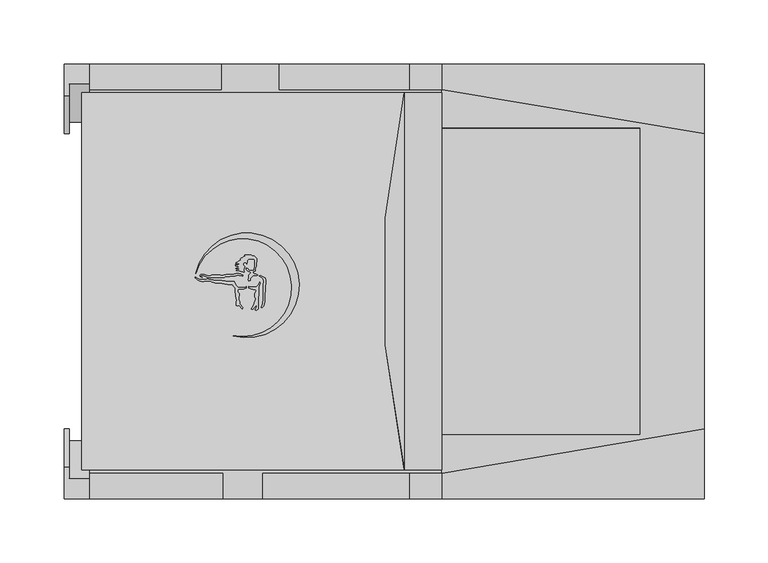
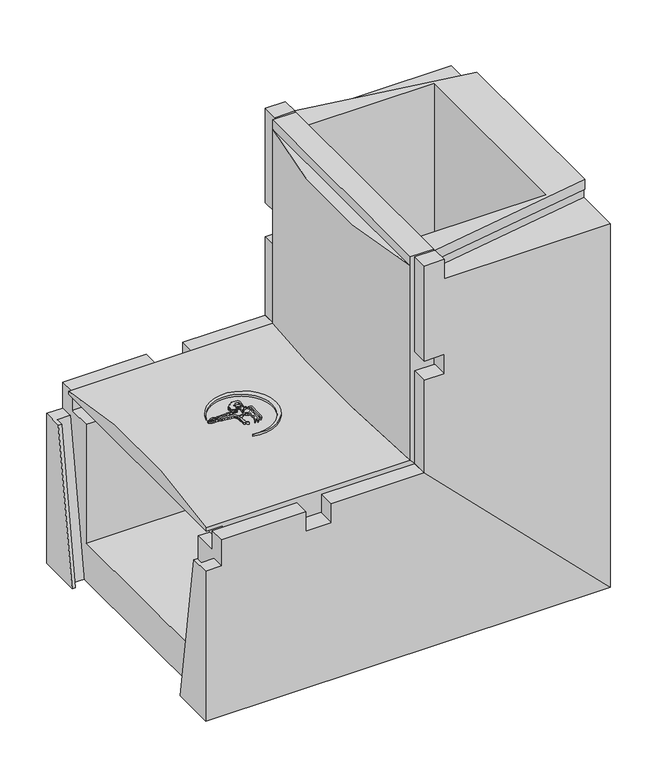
"""IFC4 building model written with IfcOpenShell, lengths in millimetres: cable carrier fitting geometry, Evotray type 2 vertical bend up : Evotray type 2 vertical bend up."""

from ifc_helpers import new_model, si_unit, point, frame, frame_2d, origin, place, context, project, spatial, polyline, circle_curve, ellipse_curve, trimmed, segment, composite_curve, outline, extrude, faceted_brep, source, transform, mapped, element, save
from ifc_brep_helpers import plane_surface, cylinder_surface, advanced_brep


def cable_carrier_fitting_900310c0(model_context):
    return source(origin(), model_context, "Body", "SolidModel", [
        extrude(outline(composite_curve([segment(polyline([(-235.1987673, 5.907559), (-233.7730763, 5.0844359), (-234.4820077, 4.6751342), (-237.0469375, 4.6751342), (-239.5064308, 2.2156409), (-239.5064308, 0.6319729), (-240.5639447, 0.3486129), (-240.8953119, 1.5852919), (-240.5730905, 2.7878385), (-240.5730905, 5.0146536), (-239.1065498, 6.4811943), (-239.5064308, 7.1738084), (-240.5730905, 7.7896447), (-241.4313624, 8.2851682), (-242.4244859, 9.2782918), (-242.4244859, 10.5283487), (-241.6366917, 10.0735155), (-240.5730905, 9.0099142), (-239.5064308, 8.394078), (-237.1936661, 8.394078), (-236.5617675, 9.0259766), (-236.5617675, 10.6343813), (-236.1559104, 11.3373462), (-235.9163405, 12.2314336), (-235.9163405, 16.3268685), (-236.5617675, 16.9722955), (-240.5730905, 17.3232408), (-241.3212546, 16.8912881), (-241.7531031, 16.1433045), (-241.9754965, 15.313321), (-242.2482129, 13.7666695), (-242.8042347, 14.3226912), (-243.3698905, 14.8883471), (-244.3304254, 14.8883471), (-244.8048648, 14.0665939), (-244.8048648, 13.2416885), (-244.4028177, 12.5453225), (-243.675123, 11.8176278), (-244.0717623, 10.3373496), (-244.4092623, 9.0777826), (-244.1064549, 7.3604762), (-244.907248, 7.2192748), (-246.6376932, 7.6829462), (-247.8844025, 8.2642963), (-248.6376597, 8.6155459), (-250.2371082, 8.33352), (-249.7695498, 9.1433549), (-248.1127288, 9.7463885)]), True, "CONTINUOUS"), segment(trimmed(circle_curve(frame_2d((-248.6788564, 9.4744491)), 0.6280537), [point((-248.1127288, 9.7463885))], [point((-248.8344386, 10.0829273))], True, "CARTESIAN"), True, "CONTINUOUS"), segment(polyline([(-248.8344386, 10.0829273), (-250.7814537, 10.0829273), (-250.2232755, 10.6411054), (-249.3724958, 10.9507639), (-248.5540563, 11.2486515)]), True, "CONTINUOUS"), segment(trimmed(circle_curve(frame_2d((-249.2923812, 11.2486515)), 0.7383249), [point((-248.5540563, 11.2486515))], [point((-249.2923812, 11.9869764))], True, "CARTESIAN"), True, "CONTINUOUS"), segment(polyline([(-249.2923812, 11.9869764), (-251.0001288, 11.9869764), (-251.3916504, 12.6651117), (-249.5730583, 12.9857785), (-248.2767203, 13.457607), (-248.897473, 14.0783597), (-250.8606925, 14.0783597), (-250.30811, 14.6309421), (-249.2782773, 15.2255163), (-248.603553, 15.9002407), (-247.8807357, 16.3175594), (-246.9057237, 16.8804829)]), True, "CONTINUOUS"), segment(trimmed(circle_curve(frame_2d((-247.1167091, 17.2459203)), 0.4219708), [point((-246.9057237, 16.8804829))], [point((-247.3276945, 17.6113577))], True, "CARTESIAN"), True, "CONTINUOUS"), segment(polyline([(-247.3276945, 17.6113577), (-246.7102978, 18.2287544), (-245.4076278, 18.7028875), (-244.4125713, 19.2773836), (-243.2810347, 19.4769041), (-243.6348604, 20.4490324), (-238.6348604, 20.4490324), (-237.6206866, 19.9761154), (-236.4988316, 19.6755153), (-235.4843855, 19.0898245), (-234.3757091, 17.9811481), (-234.3757091, 15.4151328), (-234.8646262, 14.5683035), (-234.8646262, 11.8362675), (-235.3536612, 10.7875287), (-235.760463, 10.0829273), (-235.760463, 8.2341629), (-236.5617675, 7.7715296), (-237.3950459, 7.6246001)]), True, "CONTINUOUS"), segment(trimmed(circle_curve(frame_2d((-236.3420944, 7.3424626)), 1.0900956), [point((-237.3950459, 7.6246001))], [point((-236.6242319, 6.2895111))], True, "CARTESIAN"), True, "CONTINUOUS"), segment(polyline([(-236.6242319, 6.2895111), (-235.1987673, 5.907559)]), True, "CONTINUOUS")], self_intersect=False)), frame((0.0, 0.0, 229.0645802), z_axis=(0.0, 0.0, 1.0), x_axis=(1.0, 0.0, 0.0)), (0.0, 0.0, 1.0), 22.5),
        extrude(outline(polyline([(-230.6420581, 3.0525563), (-232.5647021, 4.1625953), (-231.375462, 4.4812513), (-230.0006066, 3.9808448), (-227.8744575, 2.753312), (-227.462808, 1.2170154), (-227.462808, -1.5561738), (-227.8811889, -3.9289297), (-228.2073261, -13.2682758), (-228.2073261, -16.1231727), (-228.766974, -19.297094), (-229.9259981, -20.4561181), (-230.8234867, -20.4561181), (-230.1486125, -18.6019165), (-229.8396569, -16.8497423), (-229.3251997, -13.9321102), (-229.3251997, -2.6926455), (-228.883565, -0.1880111), (-229.4260419, 1.8365401), (-230.6420581, 3.0525563)])), frame((0.0, 0.0, 229.0645802), z_axis=(0.0, 0.0, 1.0), x_axis=(1.0, 0.0, 0.0)), (0.0, 0.0, 1.0), 22.5),
        extrude(outline(composite_curve([segment(polyline([(-238.070307, -4.5554644), (-236.0881056, -4.5554644), (-234.6198413, -4.2965698), (-233.3145593, -2.9912878), (-232.1344504, -0.4605362), (-231.6534984, -1.7819409), (-232.2762062, -3.117342), (-232.9468137, -4.5554644), (-232.9468137, -10.5136603), (-233.3751928, -12.943119), (-233.3751928, -21.4242609), (-234.8238515, -22.8729196), (-235.3965887, -22.3001824), (-234.7178687, -20.5578122), (-234.4597233, -19.0937972)]), True, "CONTINUOUS"), segment(trimmed(circle_curve(frame_2d((-234.8743713, -19.0937972)), 0.414648), [point((-234.4597233, -19.0937972))], [point((-235.2890194, -19.0937972))], True, "CARTESIAN"), True, "CONTINUOUS"), segment(polyline([(-235.2890194, -19.0937972), (-236.0547081, -19.8594859), (-237.3215546, -21.3692548), (-237.9770637, -22.0247639), (-238.7693849, -21.6552984), (-236.605165, -18.4467105), (-236.2992553, -16.7118106), (-235.4571975, -14.9060116), (-235.19999, -13.4473154), (-235.9884987, -12.0815782), (-235.9884987, -9.315031), (-234.6653502, -7.4454743)]), True, "CONTINUOUS"), segment(trimmed(circle_curve(frame_2d((-235.0024552, -7.2068937)), 0.4129897), [point((-234.6653502, -7.4454743))], [point((-235.2410358, -6.8697887))], True, "CARTESIAN"), True, "CONTINUOUS"), segment(polyline([(-235.2410358, -6.8697887), (-237.2448508, -6.516462), (-238.6887473, -5.843162), (-240.508748, -4.9944818), (-240.508748, -4.1255015), (-238.070307, -4.5554644)]), True, "CONTINUOUS")], self_intersect=False)), frame((0.0, 0.0, 229.0645802), z_axis=(0.0, 0.0, 1.0), x_axis=(1.0, 0.0, 0.0)), (0.0, 0.0, 1.0), 22.5),
        extrude(outline(composite_curve([segment(polyline([(-280.4819029, 2.2537302), (-278.7462291, 1.4443722), (-274.5597552, 1.4443722), (-273.4890341, 1.731271), (-272.1624965, 1.731271), (-270.4413877, 1.4443722), (-268.4350656, 0.9067798), (-267.2818775, 0.597784), (-261.5899708, 0.597784), (-258.9734749, 0.1616293), (-257.6459123, -0.19409), (-252.03167, -0.19409)]), True, "CONTINUOUS"), segment(trimmed(circle_curve(frame_2d((-243.1781038, 2.7115165)), 9.3181642), [point((-252.03167, -0.19409))], [point((-248.6774022, -4.8108435))], True, "CARTESIAN"), True, "CONTINUOUS"), segment(polyline([(-248.6774022, -4.8108435), (-245.6256174, -4.8108435), (-243.5910388, -4.632841), (-242.4520349, -4.1017147), (-242.7095548, -5.0627921), (-243.6536491, -5.6078652), (-244.612336, -5.9567987), (-247.847041, -5.8438403), (-249.0357356, -6.2764898), (-249.44473, -7.153581), (-249.3696494, -8.0117562), (-248.8907652, -8.8412079), (-248.1701597, -9.5618134), (-248.1701597, -11.3180259), (-248.53546, -12.3216801), (-248.3911934, -13.970655), (-247.8861011, -15.8556852), (-247.737982, -17.5486944), (-245.3666469, -20.2766033), (-245.5753239, -21.4600691), (-248.1701597, -18.8652332), (-249.1329913, -19.1232231), (-250.5361675, -18.8758053), (-250.2606072, -18.1187094), (-250.2606072, -15.8446539), (-250.0850033, -14.8487551), (-250.2606072, -12.8415943), (-250.6362696, -11.8094702), (-250.6362696, -9.9842873), (-251.0826053, -9.0271173), (-251.0826053, -6.6493678), (-251.3310455, -5.7221762), (-251.7830159, -4.9393406), (-252.2317276, -4.1621491), (-252.84617, -3.5477067), (-253.2800213, -2.6173096), (-256.8809595, -2.4915621), (-259.2251115, -2.1008055), (-261.2577048, -1.5561738), (-264.5993244, -1.2049554), (-266.6789374, -1.2049554), (-268.021172, -0.8453047), (-269.5447671, -0.4370587), (-270.8880204, 0.1893106), (-271.8824091, 0.1893106), (-274.5338495, 0.1893106), (-275.6460936, -0.1087143), (-277.5093755, 0.0871245), (-278.9984504, 0.3353447), (-280.6717579, 1.1156208), (-281.6476843, 2.0915471), (-282.2867674, 2.7306302), (-282.2867674, 3.5175099), (-280.4819029, 2.2537302)]), True, "CONTINUOUS")], self_intersect=False)), frame((0.0, 0.0, 229.0645802), z_axis=(0.0, 0.0, 1.0), x_axis=(1.0, 0.0, 0.0)), (0.0, 0.0, 1.0), 22.5),
        extrude(outline(composite_curve([segment(polyline([(-277.9796703, 3.7977023), (-276.956356, 3.2068915), (-278.6840165, 3.7265624), (-279.014163, 4.6441261), (-278.1758386, 5.4824506), (-275.30302, 5.4824506), (-274.318583, 5.0847122), (-273.2280942, 4.6441261), (-272.4299007, 4.1832889), (-271.1696706, 4.1832889), (-270.3486455, 4.4787), (-269.4633932, 4.9898007), (-263.0496883, 4.9898007), (-262.1941137, 4.6441261), (-261.1237116, 4.6441261), (-260.1629915, 4.9898007), (-258.9838348, 4.9898007), (-258.2654957, 5.4045339), (-252.8528405, 5.4045339), (-252.0925598, 5.6780888), (-250.8504018, 5.6780888), (-250.2746333, 6.2538574), (-248.3170698, 6.2538574), (-247.0290688, 5.7334711), (-246.0171524, 5.1492409), (-245.2127113, 4.8242256)]), True, "CONTINUOUS"), segment(trimmed(circle_curve(frame_2d((-245.6200436, 4.6596527)), 0.4393221), [point((-245.2127113, 4.8242256))], [point((-245.7846166, 4.2523203))], False, "CARTESIAN"), True, "CONTINUOUS"), segment(polyline([(-245.7846166, 4.2523203), (-246.8003453, 4.6627013), (-248.112003, 4.6627013), (-249.382433, 4.8867124), (-250.1944574, 4.5945398), (-251.3374314, 4.1832889), (-254.6816293, 4.1832889), (-255.4727027, 3.7265624), (-259.0400229, 3.7265624), (-259.9228853, 3.2168416), (-269.9228853, 3.2168416), (-272.5335493, 2.9884381), (-276.222077, 4.4787), (-278.3728446, 4.4787), (-277.9796703, 3.7977023)]), True, "CONTINUOUS")], self_intersect=False)), frame((0.0, 0.0, 229.0645802), z_axis=(0.0, 0.0, 1.0), x_axis=(1.0, 0.0, 0.0)), (0.0, 0.0, 1.0), 22.5),
        extrude(outline(composite_curve([segment(trimmed(circle_curve(frame_2d((-245.3994103, -4.8721323)), 38.3616107), [point((-252.8072471, -42.511701))], [point((-282.1109456, 6.2578432))], True, "CARTESIAN"), True, "CONTINUOUS"), segment(trimmed(circle_curve(frame_2d((-242.2700096, -2.9917986)), 40.900563), [point((-282.1109456, 6.2578432))], [point((-252.8072471, -42.511701))], False, "CARTESIAN"), True, "CONTINUOUS")], self_intersect=False)), frame((0.0, 0.0, 229.0645802), z_axis=(0.0, 0.0, 1.0), x_axis=(1.0, 0.0, 0.0)), (0.0, 0.0, 1.0), 22.5),
        advanced_brep(
        [(-90.0, -147.5, 205.0), (-90.0, -147.5, 500.0), (-118.9759433, -147.5, 500.0), (-118.9759433, -147.5, 488.0), (-119.0, -147.5, 234.0), (-90.0, 147.5, 500.0), (-90.0, 147.5, 205.0), (-119.0, 147.5, 234.0), (-119.0, 147.5, 488.0), (-118.9759433, 147.5, 500.0)],
        [
            (0, 1),
            (1, 2),
            (2, 3),
            (3, 4),
            (4, 0),
            (5, 6),
            (6, 7),
            (7, 8),
            (8, 9),
            (9, 5),
            (1, 5),
            (9, 2),
            (6, 0),
            (4, 7, ellipse_curve(frame((514.2945779, 0.0, -399.2945779), z_axis=(-0.7071067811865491, 0.0, -0.707106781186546), x_axis=(-0.707106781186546, 0.0, 0.7071067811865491)), 919.584985, 650.2447788)),
            (8, 3),
            (8, 3, circle_curve(frame((514.2945779, 0.0, 488.0), z_axis=(0.0, 0.0, 1.0), x_axis=(0.0, -1.0, 0.0)), 650.2447788)),
        ],
        [
            plane_surface(frame((-90.0, -147.5, 500.0), z_axis=(0.0, -1.0, 0.0), x_axis=(-1.0, 0.0, 0.0))),
            plane_surface(frame((-90.0, 147.5, 500.0), z_axis=(0.0, 1.0, 0.0), x_axis=(1.0, 0.0, 0.0))),
            plane_surface(frame((-90.0, -147.5, 500.0), z_axis=(0.0, 0.0, 1.0), x_axis=(0.0, 1.0, 0.0))),
            plane_surface(frame((-136.0, -147.5, 251.0), z_axis=(-0.7071067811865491, 0.0, -0.707106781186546), x_axis=(0.0, 1.0, 0.0))),
            plane_surface(frame((-90.0, -147.5, 205.0), z_axis=(1.0, 0.0, 0.0), x_axis=(0.0, 1.0, 0.0))),
            plane_surface(frame((-118.9759433, -147.5, 500.0), z_axis=(-1.0, 0.0, 0.0), x_axis=(0.0, 0.0, -1.0))),
            plane_surface(frame((-118.9759433, -147.5, 488.0), z_axis=(0.0, 0.0, 1.0), x_axis=(-1.0, 0.0, 0.0))),
            cylinder_surface(frame((514.2945779, 0.0, 228.0), z_axis=(0.0, 0.0, 1.0), x_axis=(0.0, -1.0, 0.0)), 650.2447788),
        ],
        [
            (0, [[1, 2, 3, 4, 5]]),
            (1, [[6, 7, 8, 9, 10]]),
            (2, [[11, -10, 12, -2]]),
            (3, [[13, -5, 14, -7]]),
            (4, [[-1, -13, -6, -11]]),
            (5, [[15, -3, -12, -9]]),
            (6, [[-15, 16]]),
            (7, [[-4, -16, -8, -14]]),
        ],
    ),
        advanced_brep(
        [(-351.0, -147.5, 205.0), (-90.0, -147.5, 205.0), (-119.0, -147.5, 234.0), (-371.0, -147.5, 234.0), (-371.0, -147.5, 230.0), (-351.0, -147.5, 230.0), (-90.0, 147.5, 205.0), (-351.0, 147.5, 205.0), (-351.0, 147.5, 230.0), (-371.0, 147.5, 230.0), (-371.0, 147.5, 234.0), (-119.0, 147.5, 234.0)],
        [
            (0, 1),
            (1, 2),
            (2, 3),
            (3, 4),
            (4, 5),
            (5, 0),
            (6, 7),
            (7, 8),
            (8, 9),
            (9, 10),
            (10, 11),
            (11, 6),
            (9, 4),
            (3, 10, circle_curve(frame((-371.0, 0.0, -399.2945779), z_axis=(-1.0, 0.0, 0.0), x_axis=(0.0, -1.0, 0.0)), 650.2447788)),
            (6, 1),
            (0, 7),
            (11, 2, ellipse_curve(frame((514.2945779, 0.0, -399.2945779), z_axis=(0.7071067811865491, 0.0, 0.707106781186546), x_axis=(0.7071067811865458, 0.0, -0.7071067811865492)), 919.584985, 650.2447788)),
            (8, 5),
        ],
        [
            plane_surface(frame((-371.0, -147.5, 205.0), z_axis=(0.0, -1.0, 0.0), x_axis=(0.0, 0.0, -1.0))),
            plane_surface(frame((-371.0, 147.5, 205.0), z_axis=(0.0, 1.0, 0.0), x_axis=(0.0, 0.0, 1.0))),
            plane_surface(frame((-371.0, -147.5, 251.0), z_axis=(-1.0, 0.0, 0.0), x_axis=(0.0, 1.0, 0.0))),
            plane_surface(frame((-371.0, -147.5, 205.0), z_axis=(0.0, 0.0, -1.0), x_axis=(0.0, 1.0, 0.0))),
            plane_surface(frame((-90.0, -147.5, 205.0), z_axis=(0.7071067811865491, 0.0, 0.707106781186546), x_axis=(0.0, 1.0, 0.0))),
            plane_surface(frame((-371.0, 147.5, 230.0), z_axis=(0.0, 0.0, -1.0), x_axis=(-1.0, 0.0, 0.0))),
            plane_surface(frame((-351.0, -147.5, 230.0), z_axis=(-1.0, 0.0, 0.0), x_axis=(0.0, 0.0, -1.0))),
            cylinder_surface(frame((-371.0, 0.0, -399.2945779), z_axis=(1.0, 0.0, 0.0), x_axis=(0.0, -1.0, 0.0)), 650.2447788),
        ],
        [
            (0, [[1, 2, 3, 4, 5, 6]]),
            (1, [[7, 8, 9, 10, 11, 12]]),
            (2, [[13, -4, 14, -10]]),
            (3, [[15, -1, 16, -7]]),
            (4, [[-15, -12, 17, -2]]),
            (5, [[18, -5, -13, -9]]),
            (6, [[-18, -8, -16, -6]]),
            (7, [[-3, -17, -11, -14]]),
        ],
    ),
        faceted_brep([(-115.0, -170.0, 230.0), (115.0, -170.0, 0.0), (115.0, -170.0, 475.0), (-90.0, -170.0, 475.0), (-90.0, -170.0, 500.0), (-115.0, -170.0, 500.0), (-115.0, -170.0, 376.0), (-90.0, -170.0, 376.0), (-90.0, -170.0, 351.0), (-115.0, -170.0, 351.0), (115.0, 170.0, 0.0), (-115.0, 170.0, 230.0), (-115.0, 170.0, 332.0), (-90.0, 170.0, 332.0), (-90.0, 170.0, 377.0), (-115.0, 170.0, 377.0), (-115.0, 170.0, 500.0), (-90.0, 170.0, 500.0), (-90.0, 170.0, 475.0), (115.0, 170.0, 475.0), (-90.0, -120.0, 500.0), (-90.0, -150.0, 500.0), (115.0, -115.4, 500.0), (115.0, 115.4, 500.0), (-90.0, 150.0, 500.0), (-90.0, 120.0, 500.0), (65.0, 120.0, 500.0), (65.0, -120.0, 500.0), (-115.0, -150.0, 500.0), (-115.0, 150.0, 500.0), (-115.0, -150.0, 376.0), (-115.0, 150.0, 377.0), (-115.0, -150.0, 230.0), (-115.0, -150.0, 351.0), (-115.0, 150.0, 230.0), (-115.0, 150.0, 332.0), (-90.0, -150.0, 205.0), (-90.0, -120.0, 205.0), (65.0, -120.0, 50.0), (65.0, 120.0, 50.0), (-90.0, 120.0, 205.0), (-90.0, 150.0, 205.0), (115.0, 113.0, 475.0), (115.0, 113.0, 487.0), (115.0, 115.4, 487.0), (115.0, -115.4, 487.0), (115.0, -113.0, 487.0), (115.0, -113.0, 475.0), (-90.0, -150.0, 487.0), (-90.0, -150.0, 475.0), (-90.0, -150.0, 376.0), (-90.0, -150.0, 351.0), (-90.0, 150.0, 377.0), (-90.0, 150.0, 475.0), (-90.0, 150.0, 487.0), (-90.0, 150.0, 332.0), (-90.0, -147.6, 475.0), (-90.0, -147.6, 487.0), (-90.0, 147.6, 487.0), (-90.0, 147.6, 475.0)], [[[0, 1, 2, 3, 4, 5, 6, 7, 8, 9]], [[10, 11, 12, 13, 14, 15, 16, 17, 18, 19]], [[20, 21, 22, 23, 24, 25, 26, 27]], [[28, 5, 4, 21]], [[16, 29, 24, 17]], [[5, 28, 30, 6]], [[29, 16, 15, 31]], [[32, 0, 9, 33]], [[11, 34, 35, 12]], [[1, 0, 32, 36, 37, 38, 39, 40, 41, 34, 11, 10]], [[1, 10, 19, 42, 43, 44, 23, 22, 45, 46, 47, 2]], [[28, 21, 48, 49, 50, 30]], [[36, 32, 33, 51]], [[24, 29, 31, 52, 53, 54]], [[34, 41, 55, 35]], [[37, 36, 51, 8, 7, 50, 49, 56, 57, 48, 21, 20]], [[41, 40, 25, 24, 54, 58, 59, 53, 52, 14, 13, 55]], [[27, 38, 37, 20]], [[39, 26, 25, 40]], [[38, 27, 26, 39]], [[48, 21, 4, 3, 49]], [[21, 48, 45, 22]], [[24, 54, 53, 18, 17]], [[54, 24, 23, 44]], [[46, 57, 56, 47]], [[47, 56, 49, 3, 2]], [[57, 46, 45, 48]], [[42, 59, 58, 43]], [[59, 42, 19, 18, 53]], [[43, 58, 54, 44]], [[55, 13, 12, 35]], [[14, 52, 31, 15]], [[50, 7, 6, 30]], [[8, 51, 33, 9]]]),
        faceted_brep([(-385.0, -170.0, 0.0), (115.0, -170.0, 0.0), (-115.0, -170.0, 230.0), (-229.6518259, -170.0, 230.0), (-229.6518259, -170.0, 205.0), (-261.0, -170.0, 205.0), (-261.0, -170.0, 230.0), (-365.0130369, -170.0, 230.0), (-365.0130369, -170.0, 196.0), (-385.0, -170.0, 196.0), (-115.0, 170.0, 230.0), (115.0, 170.0, 0.0), (-385.0, 170.0, 0.0), (-385.0, 170.0, 196.0), (-365.0130369, 170.0, 196.0), (-365.0130369, 170.0, 230.0), (-262.0, 170.0, 230.0), (-262.0, 170.0, 205.0), (-217.0, 170.0, 205.0), (-217.0, 170.0, 230.0), (-115.0, -150.0, 230.0), (-229.6518259, -150.0, 230.0), (-115.0, 150.0, 230.0), (-217.0, 150.0, 230.0), (-365.0130369, -150.0, 230.0), (-261.0, -150.0, 230.0), (-365.0130369, 150.0, 230.0), (-262.0, 150.0, 230.0), (-385.0, -115.45, 0.0), (-385.0, -144.8926087, 196.0), (-385.0, 115.45, 0.0), (-385.0, 144.8926087, 196.0), (-381.0, -115.45, 0.0), (-381.0, -124.6, 0.0), (-365.0, -124.6, 0.0), (-365.0, 124.6, 0.0), (-381.0, 124.6, 0.0), (-381.0, 115.45, 0.0), (-90.0, 150.0, 205.0), (-90.0, 120.0, 205.0), (65.0, 120.0, 50.0), (65.0, -120.0, 50.0), (-90.0, -120.0, 205.0), (-90.0, -150.0, 205.0), (-381.0, 144.8926087, 196.0), (-381.0, -144.8926087, 196.0), (-365.0, 154.0426087, 196.0), (-381.0, 154.0426087, 196.0), (-381.0, -154.0426087, 196.0), (-365.0, -154.0426087, 196.0), (-365.0, -150.0, 205.0), (-365.0, -147.5, 205.0), (-365.0, -120.0, 205.0), (-365.0, -120.0, 50.0), (-365.0, 120.0, 50.0), (-365.0, 120.0, 205.0), (-365.0, 147.5, 205.0), (-365.0, 150.0, 205.0), (-229.6518259, -150.0, 205.0), (-261.0, -150.0, 205.0), (-217.0, 150.0, 205.0), (-262.0, 150.0, 205.0), (-351.0, 120.0, 205.0), (-351.0, -120.0, 205.0)], [[[0, 1, 2, 3, 4, 5, 6, 7, 8, 9]], [[10, 11, 12, 13, 14, 15, 16, 17, 18, 19]], [[2, 20, 21, 3]], [[22, 10, 19, 23]], [[24, 7, 6, 25]], [[15, 26, 27, 16]], [[28, 0, 9, 29]], [[12, 30, 31, 13]], [[1, 0, 28, 32, 33, 34, 35, 36, 37, 30, 12, 11]], [[2, 1, 11, 10, 22, 38, 39, 40, 41, 42, 43, 20]], [[30, 37, 44, 31]], [[32, 28, 29, 45]], [[36, 35, 46, 47]], [[33, 32, 45, 48]], [[37, 36, 47, 44]], [[34, 33, 48, 49]], [[35, 34, 49, 8, 7, 24, 50, 51, 52, 53, 54, 55, 56, 57, 26, 15, 14, 46]], [[8, 49, 48, 45, 29, 9]], [[46, 14, 13, 31, 44, 47]], [[20, 43, 58, 21]], [[50, 24, 25, 59]], [[38, 22, 23, 60]], [[26, 57, 61, 27]], [[39, 38, 60, 18, 17, 61, 57, 56, 55, 62]], [[43, 42, 63, 52, 51, 50, 59, 5, 4, 58]], [[41, 53, 52, 63, 42]], [[54, 40, 39, 62, 55]], [[53, 41, 40, 54]], [[61, 17, 16, 27]], [[18, 60, 23, 19]], [[5, 59, 25, 6]], [[58, 4, 3, 21]]]),
    ])


if __name__ == "__main__":
    model = new_model("IFC4")
    model_context = context("Model", 3, world=origin())
    ifc_project = project(units=[si_unit("LENGTHUNIT", "METRE", prefix="MILLI")], contexts=[model_context])
    site = spatial("IfcSite", under=ifc_project)
    building = spatial("IfcBuilding", under=site)
    placement = place(None, origin())
    cable_carrier_fitting_shape = cable_carrier_fitting_900310c0(model_context)
    element("IfcCableCarrierFitting", 1, ObjectType="Evotray type 2 vertical bend up : Evotray type 2 vertical bend up", at=placement, inside=building, context=model_context, shape_type="MappedRepresentation", body=[
        mapped(cable_carrier_fitting_shape, transform((0.0, 0.0, 0.0), x_axis=(1.0, 0.0, 0.0), y_axis=(0.0, 1.0, 0.0), z_axis=(0.0, 0.0, 1.0))),
    ])
    save(model, "model.ifc")
